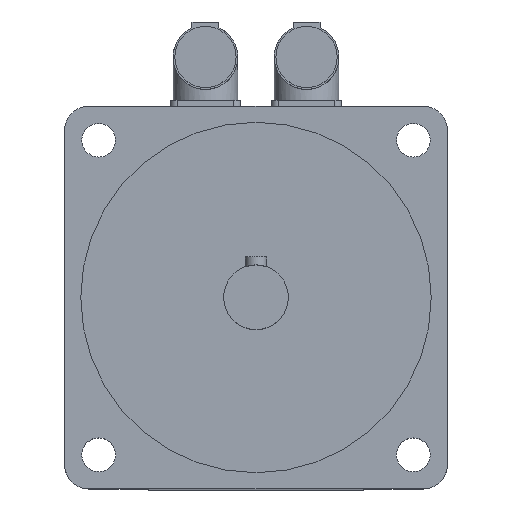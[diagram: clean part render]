
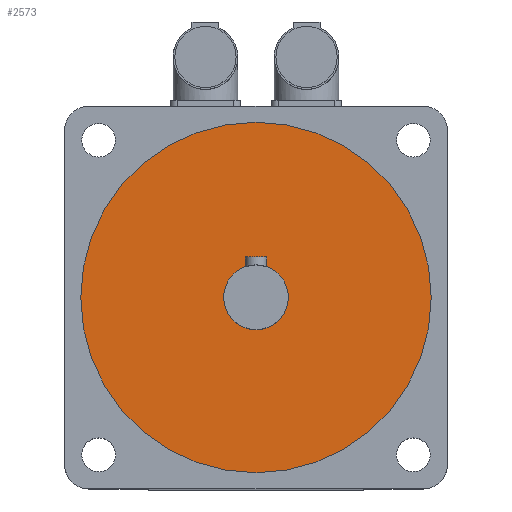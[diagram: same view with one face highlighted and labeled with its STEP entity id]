
A CAD part, top view. The second image highlights one B-rep face of the part: STEP entity #2573.
In plain terms, the highlighted planar face has unit normal (0, 0, 1).
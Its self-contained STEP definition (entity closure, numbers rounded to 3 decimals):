
#40=FACE_BOUND('',#443,.T.);
#68=CIRCLE('',#2730,12.);
#69=CIRCLE('',#2733,65.);
#285=FACE_OUTER_BOUND('',#442,.T.);
#442=EDGE_LOOP('',(#1750));
#443=EDGE_LOOP('',(#1751));
#1090=VERTEX_POINT('',#3908);
#1091=VERTEX_POINT('',#3912);
#1348=EDGE_CURVE('',#1090,#1090,#68,.T.);
#1349=EDGE_CURVE('',#1091,#1091,#69,.T.);
#1750=ORIENTED_EDGE('',*,*,#1349,.T.);
#1751=ORIENTED_EDGE('',*,*,#1348,.T.);
#2497=PLANE('',#2735);
#2573=ADVANCED_FACE('',(#285,#40),#2497,.F.);
#2730=AXIS2_PLACEMENT_3D('',#3909,#3045,#3046);
#2733=AXIS2_PLACEMENT_3D('',#3913,#3051,#3052);
#2735=AXIS2_PLACEMENT_3D('',#3916,#3055,#3056);
#3045=DIRECTION('center_axis',(0.,0.,
-1.));
#3046=DIRECTION('ref_axis',(-1.,0.,0.));
#3051=DIRECTION('center_axis',(0.,0.,
1.));
#3052=DIRECTION('ref_axis',(-1.,0.,0.));
#3055=DIRECTION('center_axis',(0.,0.,
-1.));
#3056=DIRECTION('ref_axis',(-1.,0.,0.));
#3908=CARTESIAN_POINT('',(12.,0.,206.5));
#3909=CARTESIAN_POINT('Origin',(0.,0.,
206.5));
#3912=CARTESIAN_POINT('',(65.,0.,206.5));
#3913=CARTESIAN_POINT('Origin',(0.,0.,
206.5));
#3916=CARTESIAN_POINT('Origin',(0.,0.,
206.5));
